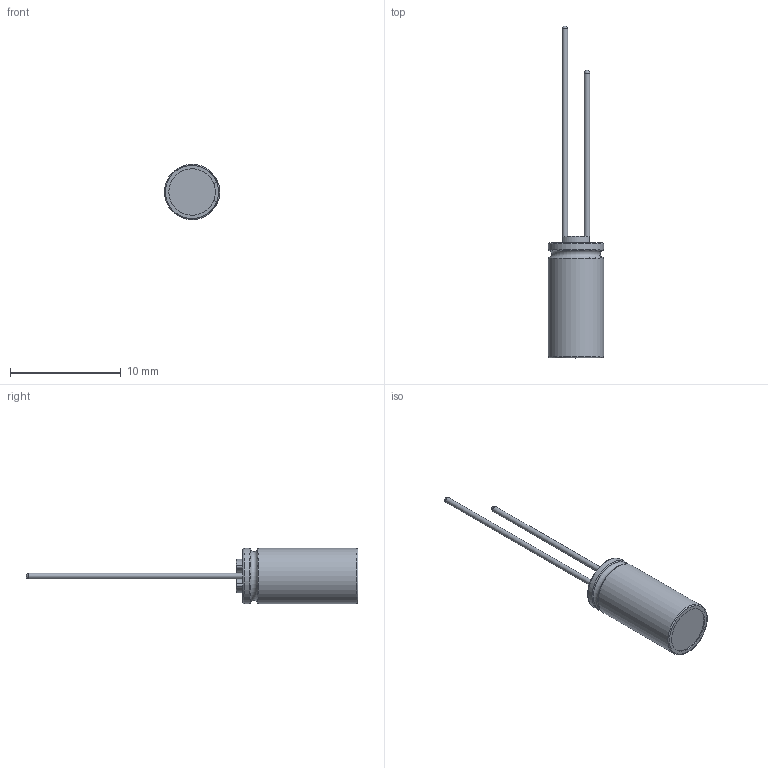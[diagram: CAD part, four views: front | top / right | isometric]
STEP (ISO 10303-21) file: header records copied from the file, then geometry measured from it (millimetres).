
FILE_DESCRIPTION(/* description */ (''),/* implementation_level */ '2;1');
FILE_NAME(/* name */ '5x11_Lead.stp',/* time_stamp */ '2017-09-05T13:38:00+09:00',/* author */ (''),/* organization */ (''),/* preprocessor_version */ 'ST-DEVELOPER v16',/* originating_system */ 'SIEMENS PLM Software NX 11.0',/* authorisation */ '');
FILE_SCHEMA (('AUTOMOTIVE_DESIGN { 1 0 10303 214 3 1 1 1 }'));
Length unit declared in the file: millimetre
Products named in the file (1): 5x11_Lead_0
Bounding box: 4.99 x 30 x 5 mm (x, y, z)
Volume: 208.7 mm3; surface area: 604.7 mm2
Topology: 3 solids, 3 shells, 79 faces, 196 edges, 125 vertices
Faces by surface type: cylinder 32, torus 27, plane 18, sphere 2
Full cylindrical faces by diameter (mm): 0.5 x2, 4.8 x2
Entity records: 2654 total; most frequent: DIRECTION 466, CARTESIAN_POINT 384, ORIENTED_EDGE 368, AXIS2_PLACEMENT_3D 202, EDGE_CURVE 184, CIRCLE 122, VERTEX_POINT 120, EDGE_LOOP 88
